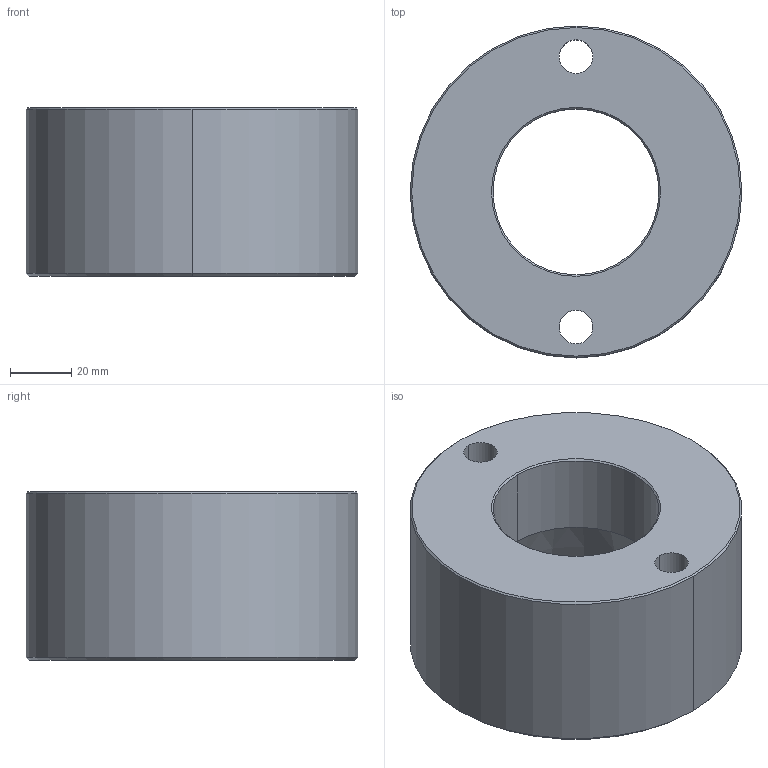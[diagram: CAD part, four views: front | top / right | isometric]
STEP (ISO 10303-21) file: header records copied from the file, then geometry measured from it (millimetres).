
FILE_DESCRIPTION((''),'2;1');
FILE_NAME('','2010-08-30T17:24:41+09:00',('misumi'),(''),'M/STEP i/f 1R2-14','CADmeister v5.1','');
FILE_SCHEMA(('AUTOMOTIVE_DESIGN'));
Length unit declared in the file: millimetre
Products named in the file (1): HKD38-55-Y
Bounding box: 108 x 108 x 55 mm (x, y, z)
Volume: 343366.3 mm3; surface area: 44818.8 mm2
Topology: 1 solids, 1 shells, 24 faces, 54 edges, 34 vertices
Faces by surface type: cylinder 12, cone 8, plane 4
Entity records: 782 total; most frequent: DIRECTION 138, CARTESIAN_POINT 113, ORIENTED_EDGE 108, AXIS2_PLACEMENT_3D 59, EDGE_CURVE 54, VERTEX_POINT 34, CIRCLE 34, EDGE_LOOP 32
